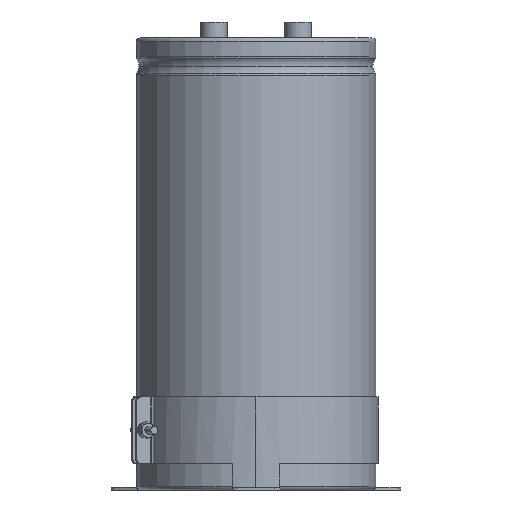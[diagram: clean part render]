
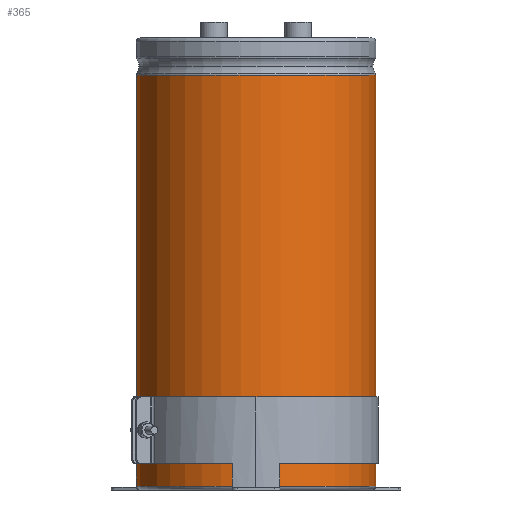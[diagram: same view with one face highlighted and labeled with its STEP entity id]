
A CAD part, left-side view. The second image highlights one B-rep face of the part: STEP entity #365.
In plain terms, the highlighted cylindrical face has radius 45 mm (diameter 90 mm), a partial arc.
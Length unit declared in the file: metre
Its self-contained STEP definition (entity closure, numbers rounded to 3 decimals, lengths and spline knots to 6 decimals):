
#365=ADVANCED_FACE('0:237',(#597),#598,.T.);
#597=FACE_OUTER_BOUND('',#1082,.T.);
#598=CYLINDRICAL_SURFACE('',#1083,0.045);
#1082=EDGE_LOOP('',(#2038,#2039,#2040,#2041));
#1083=AXIS2_PLACEMENT_3D('',#2042,#2043,#2044);
#2038=ORIENTED_EDGE('',*,*,#2995,.T.);
#2039=ORIENTED_EDGE('',*,*,#3004,.T.);
#2040=ORIENTED_EDGE('',*,*,#3006,.T.);
#2041=ORIENTED_EDGE('',*,*,#3007,.F.);
#2042=CARTESIAN_POINT('',(0.0,0.0,0.0));
#2043=DIRECTION('',(-0.0,0.0,1.0));
#2044=DIRECTION('',(0.0,1.0,0.0));
#2995=EDGE_CURVE('',#5626,#5634,#5635,.T.);
#3004=EDGE_CURVE('0:309',#5634,#5645,#5647,.T.);
#3006=EDGE_CURVE('0:312',#5645,#5649,#5650,.T.);
#3007=EDGE_CURVE('0:315',#5626,#5649,#5651,.T.);
#5626=VERTEX_POINT('',#6662);
#5634=VERTEX_POINT('',#6670);
#5635=LINE('',#6671,#6672);
#5645=VERTEX_POINT('',#6683);
#5647=CIRCLE('',#6685,0.045);
#5649=VERTEX_POINT('',#6687);
#5650=LINE('',#6688,#6689);
#5651=CIRCLE('',#6690,0.045);
#6662=CARTESIAN_POINT('',(0.,-0.045,0.0015));
#6670=CARTESIAN_POINT('',(0.,-0.045,0.1559));
#6671=CARTESIAN_POINT('',(0.,-0.045,0.0787));
#6672=VECTOR('',#8209,1.0);
#6683=CARTESIAN_POINT('',(-0.004,0.044822,0.1559));
#6685=AXIS2_PLACEMENT_3D('',#8226,#8227,#8228);
#6687=CARTESIAN_POINT('',(-0.004,0.044822,0.0015));
#6688=CARTESIAN_POINT('',(-0.004,0.044822,0.1559));
#6689=VECTOR('',#8229,0.001);
#6690=AXIS2_PLACEMENT_3D('',#8230,#8231,#8232);
#8209=DIRECTION('',(0.0,0.0,1.0));
#8226=CARTESIAN_POINT('',(0.0,0.0,0.1559));
#8227=DIRECTION('',(0.0,0.0,-1.0));
#8228=DIRECTION('',(0.0,1.0,0.0));
#8229=DIRECTION('',(0.0,0.0,-1.0));
#8230=CARTESIAN_POINT('',(0.0,0.0,0.0015));
#8231=DIRECTION('',(0.0,0.0,-1.0));
#8232=DIRECTION('',(0.0,1.0,0.0));
